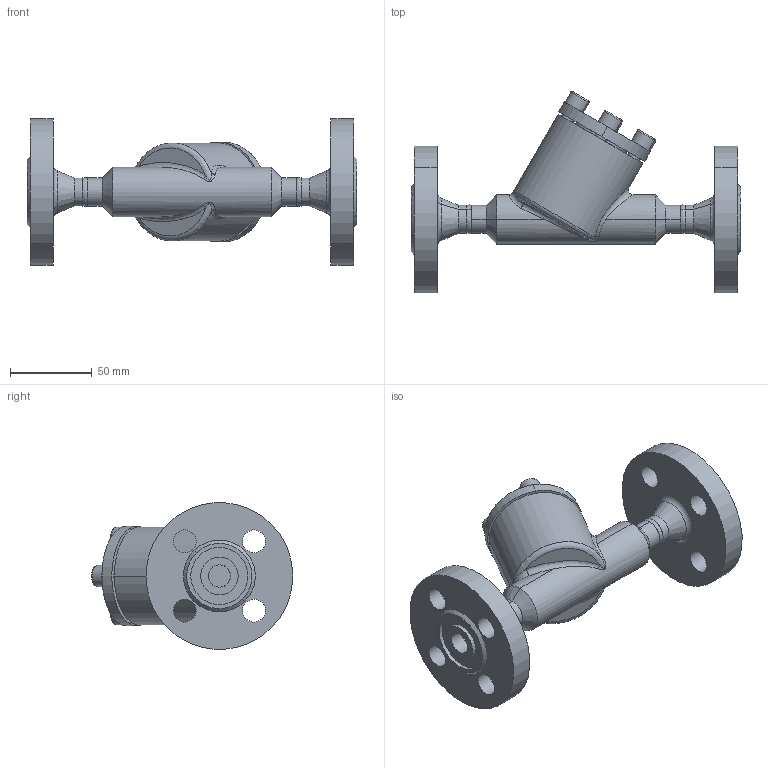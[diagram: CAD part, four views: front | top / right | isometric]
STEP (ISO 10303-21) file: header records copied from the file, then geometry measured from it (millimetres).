
FILE_DESCRIPTION (( 'STEP AP214' ), '1' );
FILE_NAME ('SS52320D08-DN010_DIN-FL-N_PS40.STEP', '2006-05-02T05:46:13', ( 'Herr Grams' ), ( 'AWP GmbH' ), 'SwSTEP 2.0', 'SolidWorks 2002296', '' );
FILE_SCHEMA (( 'AUTOMOTIVE_DESIGN' ));
Length unit declared in the file: millimetre
Products named in the file (9): SS52320D08-DN010_DIN-FL-N_PS40; Gehäuse-kpl16320-DN010_DIN_PS40_Standard; Gehäuse16300-DN010_Standard; Flansch-DIN2635-Nut_PS40_DIN-Flansch-DN010_PS40-Nut; bead16320-DN010-2_Standard; bead16320-DN010-1_Standard; SS52300K10_Deck+Schr-DN10-20_Standard; Deckel52300K10-DN10-20_Standard; Zylinderschraube-DIN912_M 8x 16
Assembly tree (12 placements, depth 3):
  SS52320D08-DN010_DIN-FL-N_PS40
    Gehäuse-kpl16320-DN010_DIN_PS40_Standard
      bead16320-DN010-2_Standard
      bead16320-DN010-1_Standard
      Gehäuse16300-DN010_Standard
      Flansch-DIN2635-Nut_PS40_DIN-Flansch-DN010_PS40-Nut  x2
    SS52300K10_Deck+Schr-DN10-20_Standard
      Zylinderschraube-DIN912_M 8x 16  x4
      Deckel52300K10-DN10-20_Standard
Bounding box: 202 x 123.19 x 89.66 mm (x, y, z)
Volume: 390980.8 mm3; surface area: 82778.1 mm2
Topology: 10 solids, 10 shells, 214 faces, 471 edges, 297 vertices
Faces by surface type: cylinder 83, plane 67, cone 36, bspline 14, torus 14
Entity records: 18779 total; most frequent: CARTESIAN_POINT 15324, DIRECTION 636, ORIENTED_EDGE 570, EDGE_CURVE 285, AXIS2_PLACEMENT_3D 270, VERTEX_POINT 179, EDGE_LOOP 160, CIRCLE 139
